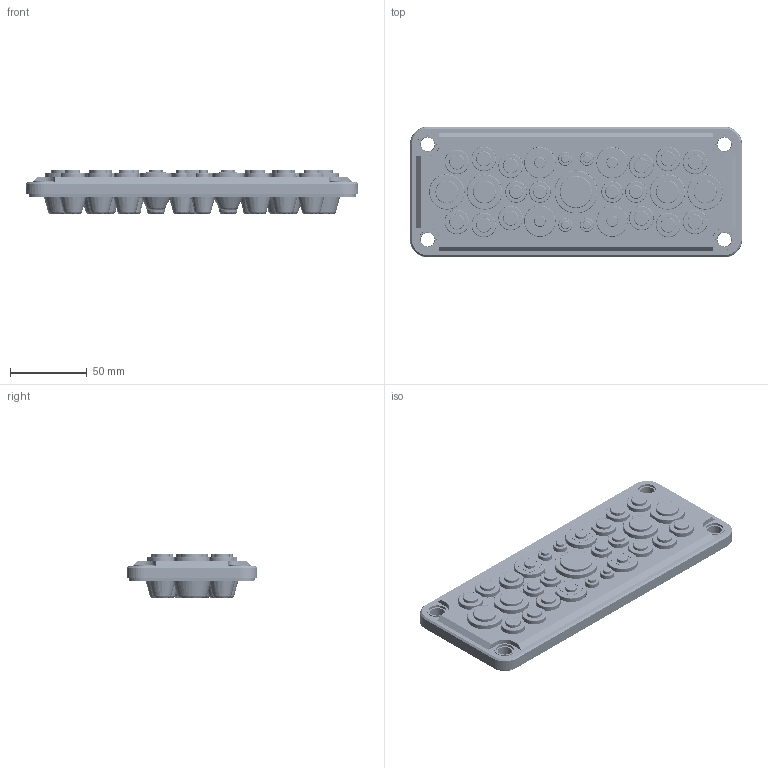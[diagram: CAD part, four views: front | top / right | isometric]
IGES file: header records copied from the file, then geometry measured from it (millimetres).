
Start section: SolidWorks IGES file using analytic representation for surfaces
Global section: file name: G:\3DRAW\EK\3DCAM\Accessories\IGS\FIBOX FMC-25.IGS; native system: SolidWorks 2009; preprocessor: SolidWorks 2009; author: KennethW; date: 091112.144109; units: millimetre
Bounding box: 216 x 85 x 29 mm (x, y, z)
Surface area: 102860.7 mm2 (no closed solid volume)
Topology: 0 solids, 0 shells, 1290 faces, 18500 edges, 18500 vertices
Faces by surface type: bspline 726, revolution 564
